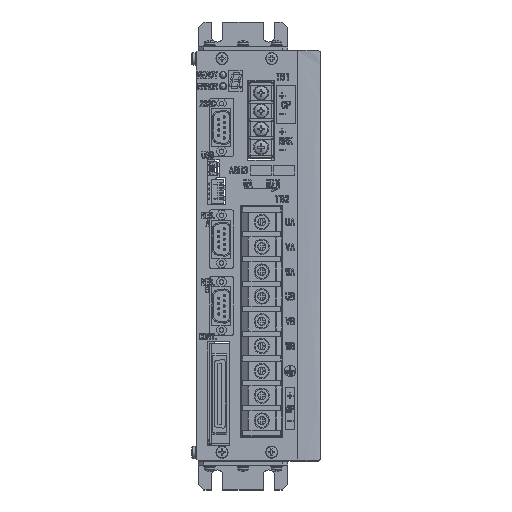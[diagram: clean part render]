
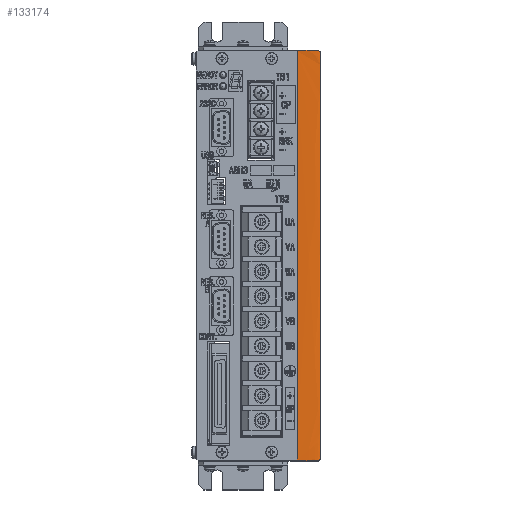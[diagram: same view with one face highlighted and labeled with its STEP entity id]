
A CAD part, top view. The second image highlights one B-rep face of the part: STEP entity #133174.
In plain terms, the highlighted free-form (B-spline) face has degree [2, 1] with [7, 2] control points.
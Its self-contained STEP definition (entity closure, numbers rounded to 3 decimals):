
#133052=CARTESIAN_POINT('',(49.951,-97.285,163.427));
#133053=VERTEX_POINT('',#133052);
#133061=CARTESIAN_POINT('',(49.951,115.715,163.427));
#133062=VERTEX_POINT('',#133061);
#133069=CARTESIAN_POINT('',(49.951,-97.285,163.427));
#133070=DIRECTION('',(0.,1.,0.));
#133071=VECTOR('',#133070,213.);
#133072=LINE('',#133069,#133071);
#133073=EDGE_CURVE('',#133053,#133062,#133072,.T.);
#133078=CARTESIAN_POINT('',(36.951,-98.285,164.412));
#133079=CARTESIAN_POINT('',(36.951,116.715,164.412));
#133080=CARTESIAN_POINT('',(39.361,-98.285,164.37));
#133081=CARTESIAN_POINT('',(39.361,116.715,164.37));
#133082=CARTESIAN_POINT('',(41.576,-98.285,164.293));
#133083=CARTESIAN_POINT('',(41.576,116.715,164.293));
#133084=CARTESIAN_POINT('',(45.463,-98.285,164.159));
#133085=CARTESIAN_POINT('',(45.463,116.715,164.159));
#133086=CARTESIAN_POINT('',(47.707,-98.285,163.927));
#133087=CARTESIAN_POINT('',(47.707,116.715,163.927));
#133088=CARTESIAN_POINT('',(49.951,-98.285,163.695));
#133089=CARTESIAN_POINT('',(49.951,116.715,163.695));
#133090=CARTESIAN_POINT('',(49.951,-98.285,163.427));
#133091=CARTESIAN_POINT('',(49.951,116.715,163.427));
#133092=B_SPLINE_SURFACE_WITH_KNOTS('',2,1,((#133078,#133079),(#133080,#133081),(#133082,#133083),(#133084,#133085),(#133086,#133087),(#133088,#133089),(#133090,#133091)),.UNSPECIFIED.,.F.,.F.,.U.,(3,2,2,3),(2,2),(0.492,0.496,0.501,0.504),(0.,1.),.UNSPECIFIED.);
#133093=CARTESIAN_POINT('',(48.951,-98.285,163.769));
#133094=VERTEX_POINT('',#133093);
#133095=CARTESIAN_POINT('',(49.951,-97.285,163.427));
#133096=CARTESIAN_POINT('',(49.951,-97.285,163.443));
#133097=CARTESIAN_POINT('',(49.945,-97.291,163.457));
#133098=CARTESIAN_POINT('',(49.938,-97.298,163.469));
#133099=CARTESIAN_POINT('',(49.93,-97.306,163.48));
#133100=CARTESIAN_POINT('',(49.921,-97.315,163.489));
#133101=CARTESIAN_POINT('',(49.912,-97.324,163.498));
#133102=CARTESIAN_POINT('',(49.893,-97.343,163.514));
#133103=CARTESIAN_POINT('',(49.873,-97.363,163.527));
#133104=CARTESIAN_POINT('',(49.853,-97.383,163.538));
#133105=CARTESIAN_POINT('',(49.812,-97.424,163.56));
#133106=CARTESIAN_POINT('',(49.77,-97.466,163.578));
#133107=CARTESIAN_POINT('',(49.728,-97.509,163.593));
#133108=CARTESIAN_POINT('',(49.643,-97.593,163.624));
#133109=CARTESIAN_POINT('',(49.557,-97.679,163.647));
#133110=CARTESIAN_POINT('',(49.471,-97.765,163.668));
#133111=CARTESIAN_POINT('',(49.299,-97.938,163.709));
#133112=CARTESIAN_POINT('',(49.125,-98.111,163.741));
#133113=CARTESIAN_POINT('',(48.951,-98.285,163.769));
#133114=B_SPLINE_CURVE_WITH_KNOTS('',3,(#133095,#133096,#133097,#133098,#133099,#133100,#133101,#133102,#133103,#133104,#133105,#133106,#133107,#133108,#133109,#133110,#133111,#133112,#133113),.UNSPECIFIED.,.F.,.F.,(4,3,3,3,3,3,4),(0.,0.,0.,0.,0.,0.001,0.001),.UNSPECIFIED.);
#133115=EDGE_CURVE('',#133053,#133094,#133114,.T.);
#133116=ORIENTED_EDGE('',*,*,#133115,.F.);
#133117=ORIENTED_EDGE('',*,*,#133073,.T.);
#133118=CARTESIAN_POINT('',(48.951,116.715,163.769));
#133119=VERTEX_POINT('',#133118);
#133120=CARTESIAN_POINT('',(48.951,116.715,163.769));
#133121=CARTESIAN_POINT('',(49.125,116.541,163.741));
#133122=CARTESIAN_POINT('',(49.299,116.368,163.709));
#133123=CARTESIAN_POINT('',(49.471,116.195,163.667));
#133124=CARTESIAN_POINT('',(49.557,116.109,163.647));
#133125=CARTESIAN_POINT('',(49.643,116.023,163.623));
#133126=CARTESIAN_POINT('',(49.728,115.938,163.593));
#133127=CARTESIAN_POINT('',(49.771,115.896,163.577));
#133128=CARTESIAN_POINT('',(49.813,115.854,163.56));
#133129=CARTESIAN_POINT('',(49.853,115.813,163.538));
#133130=CARTESIAN_POINT('',(49.874,115.793,163.526));
#133131=CARTESIAN_POINT('',(49.894,115.773,163.514));
#133132=CARTESIAN_POINT('',(49.912,115.754,163.497));
#133133=CARTESIAN_POINT('',(49.922,115.745,163.489));
#133134=CARTESIAN_POINT('',(49.931,115.736,163.48));
#133135=CARTESIAN_POINT('',(49.938,115.729,163.469));
#133136=CARTESIAN_POINT('',(49.945,115.721,163.457));
#133137=CARTESIAN_POINT('',(49.951,115.715,163.443));
#133138=CARTESIAN_POINT('',(49.951,115.715,163.427));
#133139=B_SPLINE_CURVE_WITH_KNOTS('',3,(#133120,#133121,#133122,#133123,#133124,#133125,#133126,#133127,#133128,#133129,#133130,#133131,#133132,#133133,#133134,#133135,#133136,#133137,#133138),.UNSPECIFIED.,.F.,.F.,(4,3,3,3,3,3,4),(0.,0.001,0.001,0.001,0.001,0.001,0.001),.UNSPECIFIED.);
#133140=EDGE_CURVE('',#133119,#133062,#133139,.T.);
#133141=ORIENTED_EDGE('',*,*,#133140,.F.);
#133142=CARTESIAN_POINT('',(36.951,116.715,164.412));
#133143=VERTEX_POINT('',#133142);
#133144=CARTESIAN_POINT('',(36.951,116.715,164.412));
#133145=CARTESIAN_POINT('',(39.361,116.715,164.37));
#133146=CARTESIAN_POINT('',(41.576,116.715,164.293));
#133147=CARTESIAN_POINT('',(45.463,116.715,164.159));
#133148=CARTESIAN_POINT('',(47.707,116.715,163.927));
#133149=CARTESIAN_POINT('',(48.453,116.715,163.85));
#133150=CARTESIAN_POINT('',(48.951,116.715,163.769));
#133151=B_SPLINE_CURVE_WITH_KNOTS('',2,(#133144,#133145,#133146,#133147,#133148,#133149,#133150),.UNSPECIFIED.,.F.,.F.,(3,2,2,3),(0.492,0.496,0.501,0.502),.UNSPECIFIED.);
#133152=EDGE_CURVE('',#133143,#133119,#133151,.T.);
#133153=ORIENTED_EDGE('',*,*,#133152,.F.);
#133154=CARTESIAN_POINT('',(36.951,-98.285,164.412));
#133155=VERTEX_POINT('',#133154);
#133156=CARTESIAN_POINT('',(36.951,-98.285,164.412));
#133157=DIRECTION('',(0.,1.,0.));
#133158=VECTOR('',#133157,215.);
#133159=LINE('',#133156,#133158);
#133160=EDGE_CURVE('',#133155,#133143,#133159,.T.);
#133161=ORIENTED_EDGE('',*,*,#133160,.F.);
#133162=CARTESIAN_POINT('',(36.951,-98.285,164.412));
#133163=CARTESIAN_POINT('',(39.361,-98.285,164.37));
#133164=CARTESIAN_POINT('',(41.576,-98.285,164.293));
#133165=CARTESIAN_POINT('',(45.463,-98.285,164.159));
#133166=CARTESIAN_POINT('',(47.707,-98.285,163.927));
#133167=CARTESIAN_POINT('',(48.453,-98.285,163.85));
#133168=CARTESIAN_POINT('',(48.951,-98.285,163.769));
#133169=B_SPLINE_CURVE_WITH_KNOTS('',2,(#133162,#133163,#133164,#133165,#133166,#133167,#133168),.UNSPECIFIED.,.F.,.F.,(3,2,2,3),(0.492,0.496,0.501,0.502),.UNSPECIFIED.);
#133170=EDGE_CURVE('',#133155,#133094,#133169,.T.);
#133171=ORIENTED_EDGE('',*,*,#133170,.T.);
#133172=EDGE_LOOP('',(#133116,#133117,#133141,#133153,#133161,#133171));
#133173=FACE_BOUND('',#133172,.T.);
#133174=ADVANCED_FACE('',(#133173),#133092,.T.);
